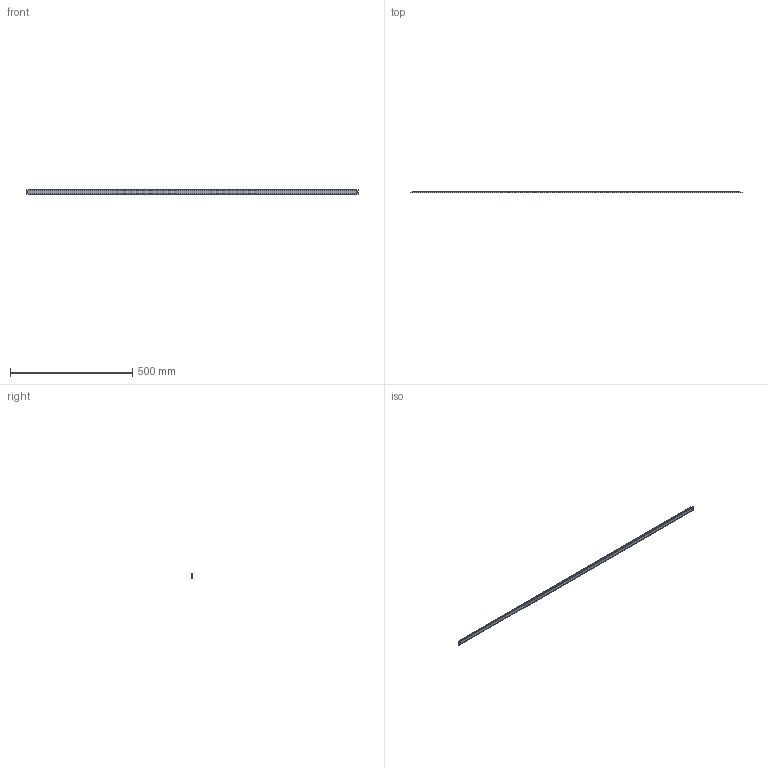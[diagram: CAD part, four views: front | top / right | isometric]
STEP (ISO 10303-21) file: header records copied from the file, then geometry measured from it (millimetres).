
FILE_DESCRIPTION (( 'STEP AP214' ), '1' );
FILE_NAME ('SAScale_exposed.ScaleLneght1360.STEP', '2026-03-10T09:14:34', ( '' ), ( '' ), 'SwSTEP 2.0', 'SolidWorks 2024', '' );
FILE_SCHEMA (( 'AUTOMOTIVE_DESIGN' ));
Length unit declared in the file: millimetre
Products named in the file (1): SAScale_exposed.ScaleLneght1360
Bounding box: 1360 x 6 x 18 mm (x, y, z)
Volume: 134715.6 mm3; surface area: 116681.7 mm2
Topology: 2 solids, 2 shells, 52 faces, 141 edges, 94 vertices
Faces by surface type: plane 37, cylinder 15
Entity records: 2247 total; most frequent: CARTESIAN_POINT 288, ORIENTED_EDGE 282, DIRECTION 277, EDGE_CURVE 141, LINE 111, VECTOR 111, VERTEX_POINT 94, AXIS2_PLACEMENT_3D 83
